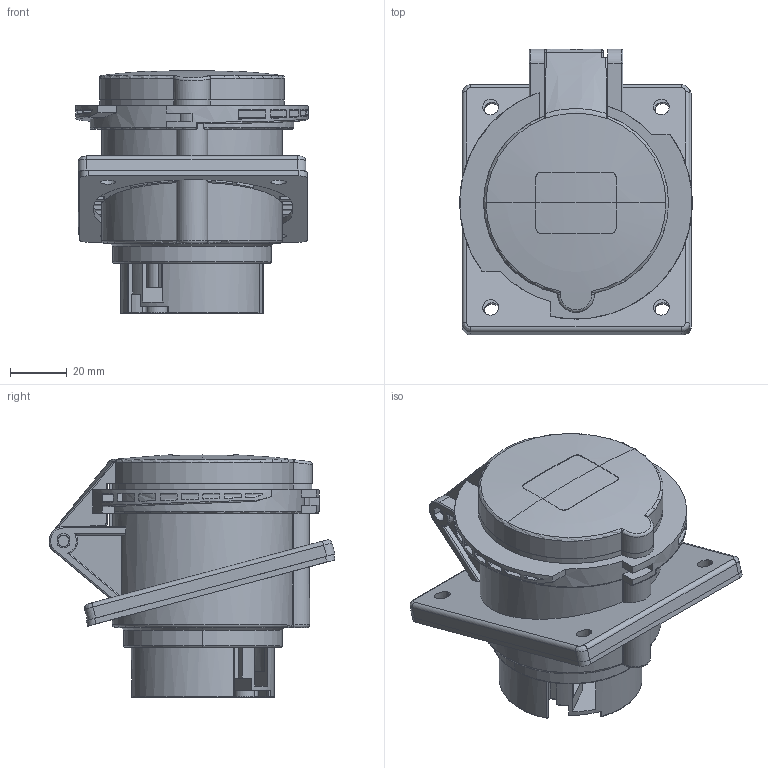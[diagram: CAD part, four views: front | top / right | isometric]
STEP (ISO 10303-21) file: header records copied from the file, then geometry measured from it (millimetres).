
FILE_DESCRIPTION(('FreeCAD Model'),'2;1');
FILE_NAME('Open CASCADE Shape Model','2026-02-04T10:47:55',(''),(''), 'Open CASCADE STEP processor 7.8','FreeCAD','Unknown');
FILE_SCHEMA(('AUTOMOTIVE_DESIGN { 1 0 10303 214 1 1 1 1 }'));
Length unit declared in the file: millimetre
Products named in the file (6): TL3I32432; Terminais; Tomada externa; Tomada interna; Tampa; Base interna
Assembly tree (5 placements, depth 2):
  TL3I32432
    Terminais
    Tomada externa
    Tomada interna
    Tampa
    Base interna
Bounding box: 81.7 x 100.51 x 85.33 mm (x, y, z)
Volume: 226764.2 mm3; surface area: 74337.3 mm2
Topology: 5 solids, 5 shells, 755 faces, 2027 edges, 1330 vertices
Faces by surface type: plane 426, cylinder 241, torus 33, bspline 27, cone 19, sphere 9
Entity records: 27797 total; most frequent: CARTESIAN_POINT 8741, ORIENTED_EDGE 4050, DIRECTION 3789, EDGE_CURVE 2025, VERTEX_POINT 1330, AXIS2_PLACEMENT_3D 1266, LINE 1257, VECTOR 1257
